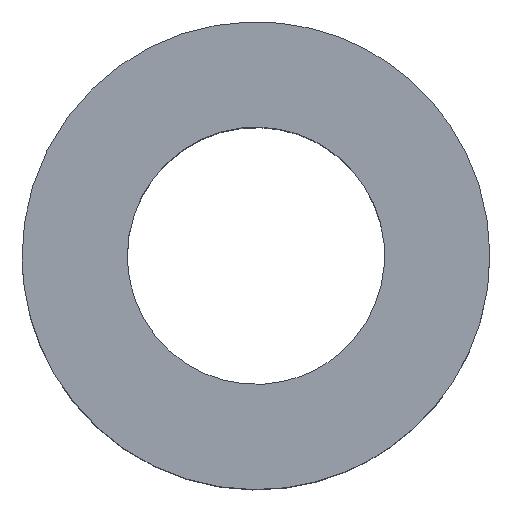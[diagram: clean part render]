
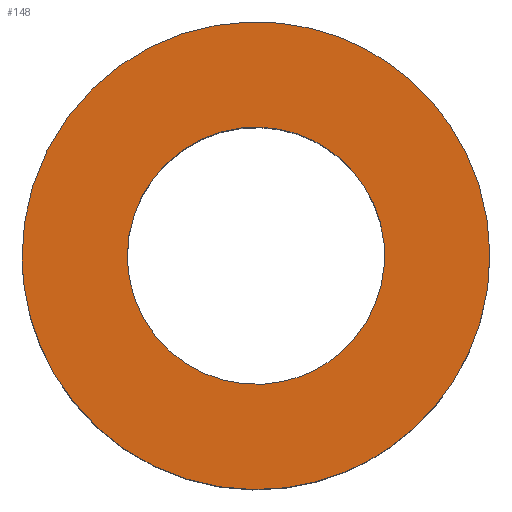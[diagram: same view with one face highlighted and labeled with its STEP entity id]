
A CAD part, top view. The second image highlights one B-rep face of the part: STEP entity #148.
In plain terms, the highlighted free-form (B-spline) face has degree [1, 1] with [2, 2] control points.
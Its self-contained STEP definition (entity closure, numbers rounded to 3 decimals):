
#115 = EDGE_CURVE('',#116,#116,#118,.T.);
#116 = VERTEX_POINT('',#117);
#117 = CARTESIAN_POINT('',(-3.,0.,3.));
#118 = ( BOUNDED_CURVE() B_SPLINE_CURVE(2,(#119,#120,#121,#122,#123,#124
,#125),.UNSPECIFIED.,.T.,.F.) B_SPLINE_CURVE_WITH_KNOTS((1,2,2,2,2,1),(
    -2.094,0.,2.094,4.189,6.283,
8.378),.UNSPECIFIED.) CURVE() GEOMETRIC_REPRESENTATION_ITEM() 
RATIONAL_B_SPLINE_CURVE((1.,0.5,1.,0.5,1.,0.5,1.)) REPRESENTATION_ITEM(
  '') );
#119 = CARTESIAN_POINT('',(-3.,0.,3.));
#120 = CARTESIAN_POINT('',(-3.,5.196,3.));
#121 = CARTESIAN_POINT('',(1.5,2.598,3.));
#122 = CARTESIAN_POINT('',(6.,0.,3.));
#123 = CARTESIAN_POINT('',(1.5,-2.598,3.));
#124 = CARTESIAN_POINT('',(-3.,-5.196,3.));
#125 = CARTESIAN_POINT('',(-3.,0.,3.));
#148 = ADVANCED_FACE('',(#149,#163),#166,.T.);
#149 = FACE_BOUND('',#150,.T.);
#150 = EDGE_LOOP('',(#151));
#151 = ORIENTED_EDGE('',*,*,#152,.T.);
#152 = EDGE_CURVE('',#153,#153,#155,.T.);
#153 = VERTEX_POINT('',#154);
#154 = CARTESIAN_POINT('',(-1.65,0.,3.));
#155 = ( BOUNDED_CURVE() B_SPLINE_CURVE(2,(#156,#157,#158,#159,#160,#161
,#162),.UNSPECIFIED.,.T.,.F.) B_SPLINE_CURVE_WITH_KNOTS((1,2,2,2,2,1),(
    -2.094,0.,2.094,4.189,6.283,
8.378),.UNSPECIFIED.) CURVE() GEOMETRIC_REPRESENTATION_ITEM() 
RATIONAL_B_SPLINE_CURVE((1.,0.5,1.,0.5,1.,0.5,1.)) REPRESENTATION_ITEM(
  '') );
#156 = CARTESIAN_POINT('',(-1.65,0.,3.));
#157 = CARTESIAN_POINT('',(-1.65,2.858,3.));
#158 = CARTESIAN_POINT('',(0.825,1.429,3.));
#159 = CARTESIAN_POINT('',(3.3,0.,3.));
#160 = CARTESIAN_POINT('',(0.825,-1.429,3.));
#161 = CARTESIAN_POINT('',(-1.65,-2.858,3.));
#162 = CARTESIAN_POINT('',(-1.65,0.,3.));
#163 = FACE_BOUND('',#164,.T.);
#164 = EDGE_LOOP('',(#165));
#165 = ORIENTED_EDGE('',*,*,#115,.F.);
#166 = B_SPLINE_SURFACE_WITH_KNOTS('',1,1,(
    (#167,#168)
    ,(#169,#170
  )),.UNSPECIFIED.,.F.,.F.,.F.,(2,2),(2,2),(0.,6.),(-3.,3.),
  .PIECEWISE_BEZIER_KNOTS.);
#167 = CARTESIAN_POINT('',(-3.,-3.,3.));
#168 = CARTESIAN_POINT('',(-3.,3.,3.));
#169 = CARTESIAN_POINT('',(3.,-3.,3.));
#170 = CARTESIAN_POINT('',(3.,3.,3.));
